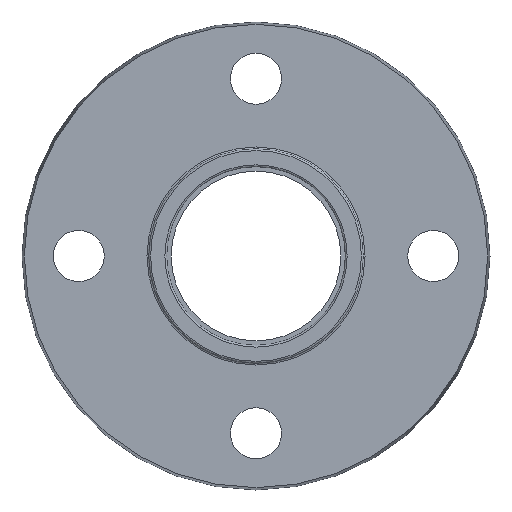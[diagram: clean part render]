
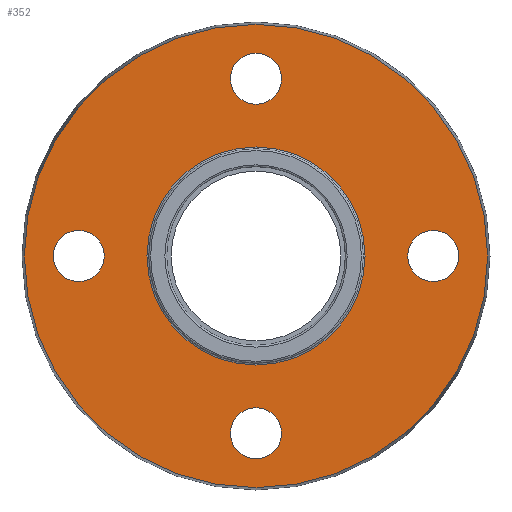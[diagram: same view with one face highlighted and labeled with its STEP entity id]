
A CAD part, left-side view. The second image highlights one B-rep face of the part: STEP entity #352.
In plain terms, the highlighted planar face has unit normal (-1, 0, 0).
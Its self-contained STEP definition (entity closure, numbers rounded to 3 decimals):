
#28=PLANE('',#409);
#55=FACE_BOUND('',#141,.T.);
#56=FACE_BOUND('',#142,.T.);
#57=FACE_BOUND('',#143,.T.);
#58=FACE_BOUND('',#144,.T.);
#59=FACE_BOUND('',#145,.T.);
#87=FACE_OUTER_BOUND('',#140,.T.);
#140=EDGE_LOOP('',(#300));
#141=EDGE_LOOP('',(#301));
#142=EDGE_LOOP('',(#302));
#143=EDGE_LOOP('',(#303));
#144=EDGE_LOOP('',(#304));
#145=EDGE_LOOP('',(#305));
#184=CIRCLE('',#408,38.43);
#185=CIRCLE('',#410,81.675);
#186=CIRCLE('',#411,9.);
#187=CIRCLE('',#412,9.);
#188=CIRCLE('',#413,9.);
#189=CIRCLE('',#414,9.);
#216=VERTEX_POINT('',#617);
#217=VERTEX_POINT('',#620);
#218=VERTEX_POINT('',#622);
#219=VERTEX_POINT('',#624);
#220=VERTEX_POINT('',#626);
#221=VERTEX_POINT('',#628);
#248=EDGE_CURVE('',#216,#216,#184,.T.);
#249=EDGE_CURVE('',#217,#217,#185,.T.);
#250=EDGE_CURVE('',#218,#218,#186,.T.);
#251=EDGE_CURVE('',#219,#219,#187,.T.);
#252=EDGE_CURVE('',#220,#220,#188,.T.);
#253=EDGE_CURVE('',#221,#221,#189,.T.);
#300=ORIENTED_EDGE('',*,*,#249,.T.);
#301=ORIENTED_EDGE('',*,*,#250,.T.);
#302=ORIENTED_EDGE('',*,*,#251,.T.);
#303=ORIENTED_EDGE('',*,*,#252,.T.);
#304=ORIENTED_EDGE('',*,*,#253,.T.);
#305=ORIENTED_EDGE('',*,*,#248,.F.);
#352=ADVANCED_FACE('',(#87,#55,#56,#57,#58,#59),#28,.T.);
#408=AXIS2_PLACEMENT_3D('',#618,#517,#518);
#409=AXIS2_PLACEMENT_3D('',#619,#519,#520);
#410=AXIS2_PLACEMENT_3D('',#621,#521,#522);
#411=AXIS2_PLACEMENT_3D('',#623,#523,#524);
#412=AXIS2_PLACEMENT_3D('',#625,#525,#526);
#413=AXIS2_PLACEMENT_3D('',#627,#527,#528);
#414=AXIS2_PLACEMENT_3D('',#629,#529,#530);
#517=DIRECTION('center_axis',(-1.,0.,0.));
#518=DIRECTION('ref_axis',(0.,1.,0.));
#519=DIRECTION('center_axis',(-1.,0.,0.));
#520=DIRECTION('ref_axis',(0.,0.,1.));
#521=DIRECTION('center_axis',(-1.,0.,0.));
#522=DIRECTION('ref_axis',(0.,0.,1.));
#523=DIRECTION('center_axis',(1.,0.,0.));
#524=DIRECTION('ref_axis',(0.,0.,1.));
#525=DIRECTION('center_axis',(1.,0.,0.));
#526=DIRECTION('ref_axis',(0.,1.,0.));
#527=DIRECTION('center_axis',(1.,0.,0.));
#528=DIRECTION('ref_axis',(0.,0.,-1.));
#529=DIRECTION('center_axis',(1.,0.,0.));
#530=DIRECTION('ref_axis',(0.,-1.,0.));
#617=CARTESIAN_POINT('',(1.5,-38.43,0.));
#618=CARTESIAN_POINT('Origin',(1.5,0.,0.));
#619=CARTESIAN_POINT('Origin',(1.5,-37.8,0.));
#620=CARTESIAN_POINT('',(1.5,-81.675,0.));
#621=CARTESIAN_POINT('Origin',(1.5,0.,0.));
#622=CARTESIAN_POINT('',(1.5,62.5,-9.));
#623=CARTESIAN_POINT('Origin',(1.5,62.5,0.));
#624=CARTESIAN_POINT('',(1.5,-9.,-62.5));
#625=CARTESIAN_POINT('Origin',(1.5,0.,-62.5));
#626=CARTESIAN_POINT('',(1.5,-62.5,9.));
#627=CARTESIAN_POINT('Origin',(1.5,-62.5,0.));
#628=CARTESIAN_POINT('',(1.5,9.,62.5));
#629=CARTESIAN_POINT('Origin',(1.5,0.,62.5));
